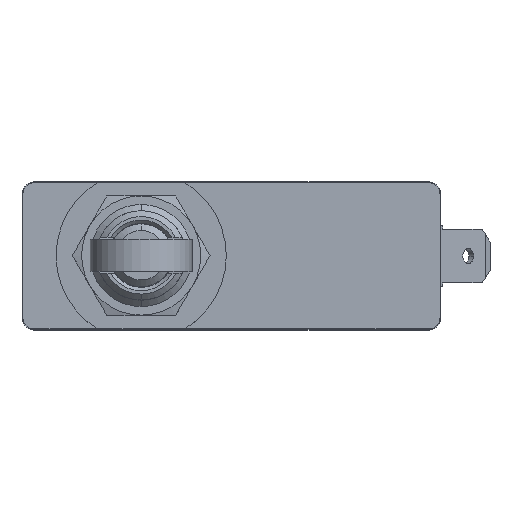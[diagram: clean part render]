
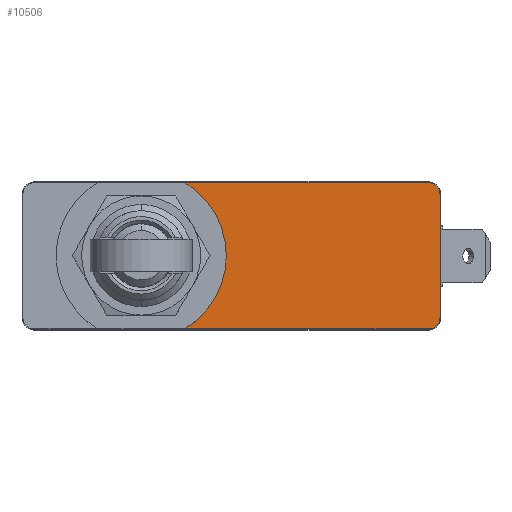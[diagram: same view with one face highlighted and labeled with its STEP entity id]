
A CAD part, top view. The second image highlights one B-rep face of the part: STEP entity #10506.
In plain terms, the highlighted planar face has unit normal (0, 0, 1).
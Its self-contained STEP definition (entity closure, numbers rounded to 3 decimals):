
#142 = EDGE_CURVE ( 'NONE', #14123, #12417, #12862, .T. ) ;
#234 = LINE ( 'NONE', #5432, #11562 ) ;
#597 = CARTESIAN_POINT ( 'NONE',  ( 23.1, -7.2, 18.4 ) ) ;
#859 = DIRECTION ( 'NONE',  ( 0., 0., 1. ) ) ;
#1675 = CARTESIAN_POINT ( 'NONE',  ( 24.5, -7.2, 18.4 ) ) ;
#2373 = EDGE_CURVE ( 'NONE', #3831, #13083, #10699, .T. ) ;
#2662 = DIRECTION ( 'NONE',  ( 0., 0., 1. ) ) ;
#2868 = ORIENTED_EDGE ( 'NONE', *, *, #3675, .T. ) ;
#2949 = CARTESIAN_POINT ( 'NONE',  ( -5.497, 8.6, 18.4 ) ) ;
#3223 = EDGE_CURVE ( 'NONE', #3831, #10662, #234, .T. ) ;
#3305 = AXIS2_PLACEMENT_3D ( 'NONE', #9247, #2662, #10320 ) ;
#3481 = AXIS2_PLACEMENT_3D ( 'NONE', #7409, #859, #8516 ) ;
#3675 = EDGE_CURVE ( 'NONE', #12417, #13083, #4847, .T. ) ;
#3811 = FACE_OUTER_BOUND ( 'NONE', #8589, .T. ) ;
#3831 = VERTEX_POINT ( 'NONE', #7574 ) ;
#3879 = DIRECTION ( 'NONE',  ( 0., 0., 1. ) ) ;
#4369 = DIRECTION ( 'NONE',  ( 1., 0., 0. ) ) ;
#4847 = LINE ( 'NONE', #12987, #8445 ) ;
#4985 = DIRECTION ( 'NONE',  ( 0., 0., 1. ) ) ;
#5432 = CARTESIAN_POINT ( 'NONE',  ( -23.1, -8.6, 18.4 ) ) ;
#6400 = ORIENTED_EDGE ( 'NONE', *, *, #6698, .T. ) ;
#6427 = DIRECTION ( 'NONE',  ( -1., 0., 0. ) ) ;
#6698 = EDGE_CURVE ( 'NONE', #10662, #7846, #10911, .T. ) ;
#7085 = ORIENTED_EDGE ( 'NONE', *, *, #3223, .T. ) ;
#7409 = CARTESIAN_POINT ( 'NONE',  ( -10.6, 0., 18.4 ) ) ;
#7574 = CARTESIAN_POINT ( 'NONE',  ( -5.497, -8.6, 18.4 ) ) ;
#7625 = ORIENTED_EDGE ( 'NONE', *, *, #2373, .F. ) ;
#7846 = VERTEX_POINT ( 'NONE', #12077 ) ;
#8445 = VECTOR ( 'NONE', #6427, 1000. ) ;
#8516 = DIRECTION ( 'NONE',  ( 1., 0., 0. ) ) ;
#8589 = EDGE_LOOP ( 'NONE', ( #7625, #7085, #6400, #11194, #12091, #2868 ) ) ;
#8691 = AXIS2_PLACEMENT_3D ( 'NONE', #597, #3879, #11570 ) ;
#9247 = CARTESIAN_POINT ( 'NONE',  ( 23.1, 7.2, 18.4 ) ) ;
#9414 = VECTOR ( 'NONE', #11505, 1000. ) ;
#9742 = LINE ( 'NONE', #1675, #9414 ) ;
#10320 = DIRECTION ( 'NONE',  ( 1., 0., 0. ) ) ;
#10444 = PLANE ( 'NONE',  #8691 ) ;
#10506 = ADVANCED_FACE ( 'NONE', ( #3811 ), #10444, .T. ) ;
#10662 = VERTEX_POINT ( 'NONE', #12930 ) ;
#10699 = CIRCLE ( 'NONE', #3481, 10. ) ;
#10911 = CIRCLE ( 'NONE', #12879, 1.4 ) ;
#11194 = ORIENTED_EDGE ( 'NONE', *, *, #14082, .T. ) ;
#11505 = DIRECTION ( 'NONE',  ( 0., 1., 0. ) ) ;
#11562 = VECTOR ( 'NONE', #4369, 1000. ) ;
#11570 = DIRECTION ( 'NONE',  ( 1., 0., 0. ) ) ;
#11573 = CARTESIAN_POINT ( 'NONE',  ( 23.1, -7.2, 18.4 ) ) ;
#12077 = CARTESIAN_POINT ( 'NONE',  ( 24.5, -7.2, 18.4 ) ) ;
#12091 = ORIENTED_EDGE ( 'NONE', *, *, #142, .T. ) ;
#12417 = VERTEX_POINT ( 'NONE', #12898 ) ;
#12648 = CARTESIAN_POINT ( 'NONE',  ( 24.5, 7.2, 18.4 ) ) ;
#12662 = DIRECTION ( 'NONE',  ( 1., 0., 0. ) ) ;
#12862 = CIRCLE ( 'NONE', #3305, 1.4 ) ;
#12879 = AXIS2_PLACEMENT_3D ( 'NONE', #11573, #4985, #12662 ) ;
#12898 = CARTESIAN_POINT ( 'NONE',  ( 23.1, 8.6, 18.4 ) ) ;
#12930 = CARTESIAN_POINT ( 'NONE',  ( 23.1, -8.6, 18.4 ) ) ;
#12987 = CARTESIAN_POINT ( 'NONE',  ( 23.1, 8.6, 18.4 ) ) ;
#13083 = VERTEX_POINT ( 'NONE', #2949 ) ;
#14082 = EDGE_CURVE ( 'NONE', #7846, #14123, #9742, .T. ) ;
#14123 = VERTEX_POINT ( 'NONE', #12648 ) ;
